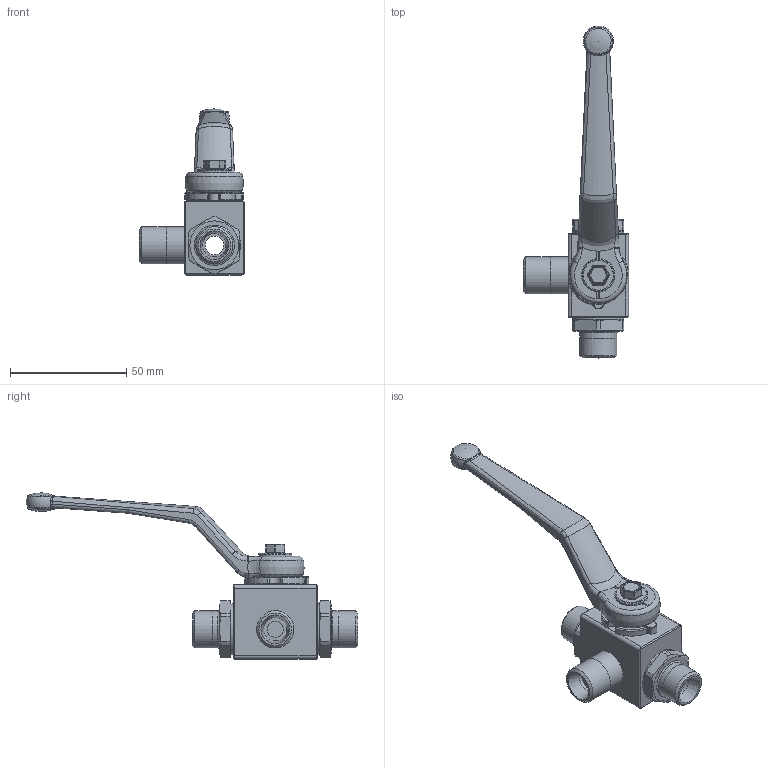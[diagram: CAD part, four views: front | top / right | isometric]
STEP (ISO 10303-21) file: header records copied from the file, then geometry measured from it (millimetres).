
FILE_DESCRIPTION( ( 'Unknown' ), '1' );
FILE_NAME( 'H:/PISTER/3D-MODELLE/BK3 stp/BK3 DN8 10L.stp', 'Unknown', ( 'Unknown' ), ( 'Unknown' ), 'PSStep 14.0', 'Unknown', ' ' );
FILE_SCHEMA( ( 'AUTOMOTIVE_DESIGN { 1 0 10303 214 1 1 1 1 }' ) );
Length unit declared in the file: millimetre
Products named in the file (10): Assem1; 06-008-059-oa7; 09-09-002; 58-28740-07-oa8; Griff_SW9; 58-0933-133; 04-008-043-oa9; 04-008-043-oa10; 04-008-036-oa11; 01-008-015-oa12
Assembly tree (9 placements, depth 2):
  Assem1
    06-008-059-oa7
    09-09-002
    58-28740-07-oa8
    Griff_SW9
    58-0933-133
    04-008-043-oa9
    04-008-043-oa10
    04-008-036-oa11
    01-008-015-oa12
Bounding box: 45.2 x 142.5 x 71.4 mm (x, y, z)
Volume: 29345.8 mm3; surface area: 23190.8 mm2
Topology: 9 solids, 9 shells, 390 faces, 955 edges, 573 vertices
Faces by surface type: cylinder 133, plane 125, bspline 42, torus 40, cone 30, sphere 20
Full cylindrical faces by diameter (mm): 4.134 x1, 4.98 x1, 5 x1, 7 x1, 8 x2, 10 x3, 14 x2, 14.3 x1, 16 x7, 22 x2, 22.5 x2
Entity records: 15844 total; most frequent: CARTESIAN_POINT 3946, DIRECTION 1853, ORIENTED_EDGE 1714, EDGE_CURVE 857, AXIS2_PLACEMENT_3D 756, VERTEX_POINT 550, EDGE_LOOP 472, FACE_OUTER_BOUND 425
